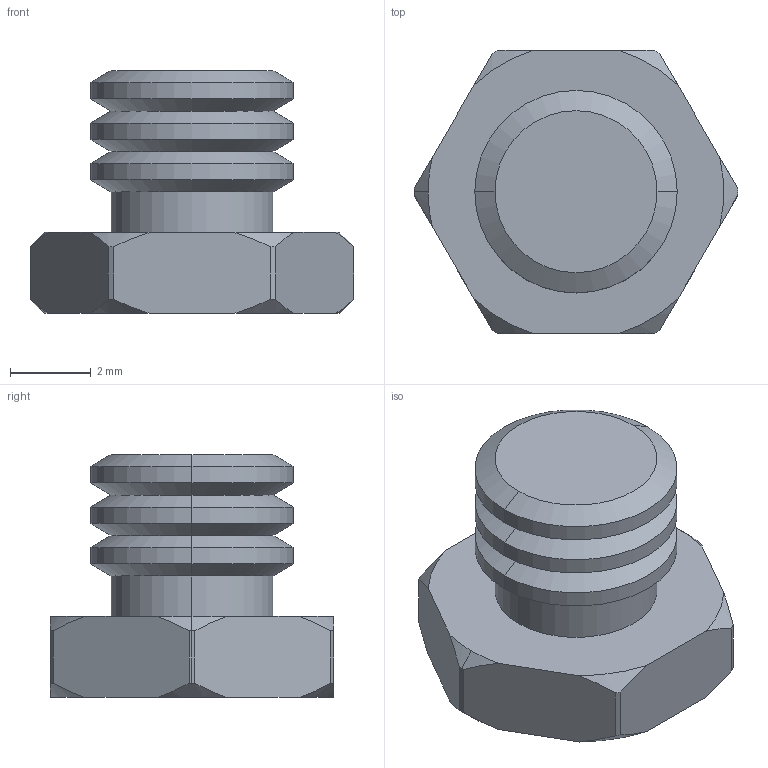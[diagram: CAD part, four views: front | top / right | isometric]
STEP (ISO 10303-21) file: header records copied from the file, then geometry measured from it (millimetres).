
FILE_DESCRIPTION (( 'STEP AP214' ), '1' );
FILE_NAME ('APF-M5.STEP', '2019-11-18T01:23:16', ( '微软用户' ), ( '微软中国' ), 'SwSTEP 2.0', 'SolidWorks 2016', '' );
FILE_SCHEMA (( 'AUTOMOTIVE_DESIGN' ));
Length unit declared in the file: millimetre
Products named in the file (1): APF-M5
Bounding box: 8 x 7 x 6 mm (x, y, z)
Volume: 149.3 mm3; surface area: 211.4 mm2
Topology: 1 solids, 1 shells, 50 faces, 122 edges, 75 vertices
Faces by surface type: cone 26, cylinder 15, plane 9
Entity records: 1523 total; most frequent: CARTESIAN_POINT 320, DIRECTION 251, ORIENTED_EDGE 244, EDGE_CURVE 122, AXIS2_PLACEMENT_3D 102, VERTEX_POINT 75, CIRCLE 51, EDGE_LOOP 51
